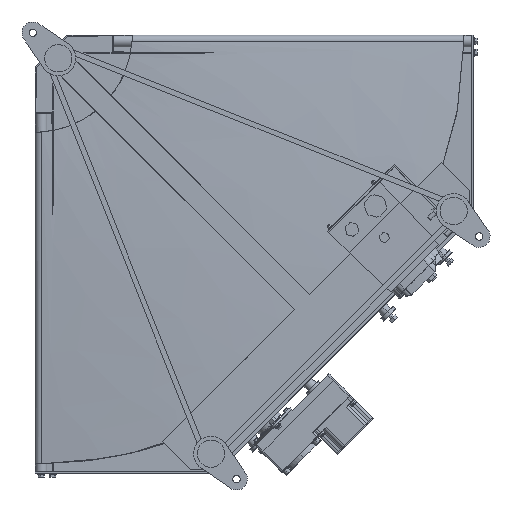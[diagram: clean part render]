
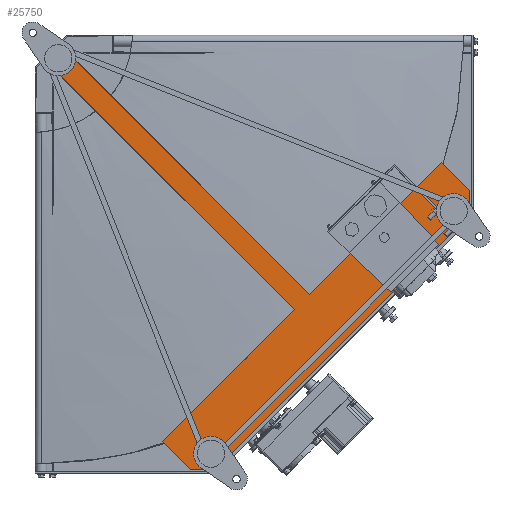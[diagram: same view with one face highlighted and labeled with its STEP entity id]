
A CAD part, front view. The second image highlights one B-rep face of the part: STEP entity #25750.
In plain terms, the highlighted planar face has unit normal (0, -1, 0).
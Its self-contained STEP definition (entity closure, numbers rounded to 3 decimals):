
#268 = CARTESIAN_POINT ( 'NONE',  ( 271.529, -167.5, -759.433 ) ) ;
#382 = CARTESIAN_POINT ( 'NONE',  ( 709.935, -167.5, -222.032 ) ) ;
#1454 = ORIENTED_EDGE ( 'NONE', *, *, #36625, .F. ) ;
#1694 = ORIENTED_EDGE ( 'NONE', *, *, #40478, .F. ) ;
#1859 = EDGE_CURVE ( 'NONE', #30905, #22695, #5357, .T. ) ;
#3122 = CARTESIAN_POINT ( 'NONE',  ( 313.955, -167.5, -759.433 ) ) ;
#3814 = VECTOR ( 'NONE', #7553, 1000. ) ;
#3858 = CARTESIAN_POINT ( 'NONE',  ( 42.073, -167.5, -15.203 ) ) ;
#4547 = DIRECTION ( 'NONE',  ( -0.707, 0., 0.707 ) ) ;
#5345 = CARTESIAN_POINT ( 'NONE',  ( 42.073, -167.5, -15.203 ) ) ;
#5357 = LINE ( 'NONE', #42029, #33442 ) ;
#6112 = VERTEX_POINT ( 'NONE', #34311 ) ;
#7140 = EDGE_CURVE ( 'NONE', #10070, #43599, #30209, .T. ) ;
#7418 = ORIENTED_EDGE ( 'NONE', *, *, #7140, .F. ) ;
#7553 = DIRECTION ( 'NONE',  ( 0.707, 0., -0.707 ) ) ;
#7840 = LINE ( 'NONE', #3858, #3814 ) ;
#9035 = LINE ( 'NONE', #27138, #37168 ) ;
#9699 = VECTOR ( 'NONE', #36234, 1000. ) ;
#9706 = EDGE_CURVE ( 'NONE', #46210, #6112, #39887, .T. ) ;
#10070 = VERTEX_POINT ( 'NONE', #40854 ) ;
#10801 = CARTESIAN_POINT ( 'NONE',  ( 15.203, -167.5, -42.073 ) ) ;
#11234 = VECTOR ( 'NONE', #47549, 1000. ) ;
#14137 = DIRECTION ( 'NONE',  ( 0., -1., 0. ) ) ;
#14619 = AXIS2_PLACEMENT_3D ( 'NONE', #36433, #14137, #17970 ) ;
#16907 = DIRECTION ( 'NONE',  ( -1., 0., 0. ) ) ;
#16935 = FACE_OUTER_BOUND ( 'NONE', #33403, .T. ) ;
#17970 = DIRECTION ( 'NONE',  ( 0., 0., -1. ) ) ;
#18015 = EDGE_CURVE ( 'NONE', #43599, #37800, #7840, .T. ) ;
#18588 = ORIENTED_EDGE ( 'NONE', *, *, #27194, .F. ) ;
#19114 = VECTOR ( 'NONE', #4547, 1000. ) ;
#19859 = LINE ( 'NONE', #25398, #11234 ) ;
#20079 = DIRECTION ( 'NONE',  ( 0., 0., -1. ) ) ;
#20659 = VECTOR ( 'NONE', #39662, 1000. ) ;
#21336 = VECTOR ( 'NONE', #16907, 1000. ) ;
#22695 = VERTEX_POINT ( 'NONE', #23416 ) ;
#23416 = CARTESIAN_POINT ( 'NONE',  ( 759.433, -167.5, -313.955 ) ) ;
#24584 = LINE ( 'NONE', #36089, #9699 ) ;
#24872 = CARTESIAN_POINT ( 'NONE',  ( 479.418, -167.5, -452.548 ) ) ;
#25398 = CARTESIAN_POINT ( 'NONE',  ( 222.032, -167.5, -709.935 ) ) ;
#25750 = ADVANCED_FACE ( 'NONE', ( #16935 ), #36602, .T. ) ;
#27000 = ORIENTED_EDGE ( 'NONE', *, *, #37162, .F. ) ;
#27082 = ORIENTED_EDGE ( 'NONE', *, *, #44680, .F. ) ;
#27138 = CARTESIAN_POINT ( 'NONE',  ( 222.032, -167.5, -709.935 ) ) ;
#27194 = EDGE_CURVE ( 'NONE', #39142, #10070, #35154, .T. ) ;
#27612 = DIRECTION ( 'NONE',  ( 0.707, 0., 0.707 ) ) ;
#28029 = ORIENTED_EDGE ( 'NONE', *, *, #1859, .F. ) ;
#29231 = CARTESIAN_POINT ( 'NONE',  ( 759.433, -167.5, -271.529 ) ) ;
#30209 = LINE ( 'NONE', #10801, #37680 ) ;
#30502 = CARTESIAN_POINT ( 'NONE',  ( 15.203, -167.5, -42.073 ) ) ;
#30566 = LINE ( 'NONE', #38730, #21336 ) ;
#30905 = VERTEX_POINT ( 'NONE', #29231 ) ;
#31326 = VECTOR ( 'NONE', #46139, 1000. ) ;
#32278 = VERTEX_POINT ( 'NONE', #382 ) ;
#33403 = EDGE_LOOP ( 'NONE', ( #18588, #1454, #37500, #27082, #1694, #28029, #34234, #27000, #38428, #7418 ) ) ;
#33442 = VECTOR ( 'NONE', #20079, 1000. ) ;
#34234 = ORIENTED_EDGE ( 'NONE', *, *, #41035, .F. ) ;
#34311 = CARTESIAN_POINT ( 'NONE',  ( 222.032, -167.5, -709.935 ) ) ;
#34654 = CARTESIAN_POINT ( 'NONE',  ( 222.032, -167.5, -709.935 ) ) ;
#34936 = CARTESIAN_POINT ( 'NONE',  ( 452.548, -167.5, -479.418 ) ) ;
#35154 = LINE ( 'NONE', #30502, #19114 ) ;
#36089 = CARTESIAN_POINT ( 'NONE',  ( 709.935, -167.5, -222.032 ) ) ;
#36234 = DIRECTION ( 'NONE',  ( 0.707, 0., -0.707 ) ) ;
#36433 = CARTESIAN_POINT ( 'NONE',  ( 0., -167.5, 0. ) ) ;
#36602 = PLANE ( 'NONE',  #14619 ) ;
#36625 = EDGE_CURVE ( 'NONE', #6112, #39142, #9035, .T. ) ;
#37162 = EDGE_CURVE ( 'NONE', #37800, #32278, #19859, .T. ) ;
#37168 = VECTOR ( 'NONE', #27612, 1000. ) ;
#37500 = ORIENTED_EDGE ( 'NONE', *, *, #9706, .F. ) ;
#37680 = VECTOR ( 'NONE', #46848, 1000. ) ;
#37800 = VERTEX_POINT ( 'NONE', #24872 ) ;
#38428 = ORIENTED_EDGE ( 'NONE', *, *, #18015, .F. ) ;
#38730 = CARTESIAN_POINT ( 'NONE',  ( 271.529, -167.5, -759.433 ) ) ;
#39142 = VERTEX_POINT ( 'NONE', #34936 ) ;
#39662 = DIRECTION ( 'NONE',  ( -0.707, 0., -0.707 ) ) ;
#39887 = LINE ( 'NONE', #34654, #31326 ) ;
#40478 = EDGE_CURVE ( 'NONE', #22695, #41899, #41912, .T. ) ;
#40854 = CARTESIAN_POINT ( 'NONE',  ( 15.203, -167.5, -42.073 ) ) ;
#41035 = EDGE_CURVE ( 'NONE', #32278, #30905, #24584, .T. ) ;
#41899 = VERTEX_POINT ( 'NONE', #45640 ) ;
#41912 = LINE ( 'NONE', #3122, #20659 ) ;
#42029 = CARTESIAN_POINT ( 'NONE',  ( 759.433, -167.5, -313.955 ) ) ;
#43599 = VERTEX_POINT ( 'NONE', #5345 ) ;
#44680 = EDGE_CURVE ( 'NONE', #41899, #46210, #30566, .T. ) ;
#45640 = CARTESIAN_POINT ( 'NONE',  ( 313.955, -167.5, -759.433 ) ) ;
#46139 = DIRECTION ( 'NONE',  ( -0.707, 0., 0.707 ) ) ;
#46210 = VERTEX_POINT ( 'NONE', #268 ) ;
#46848 = DIRECTION ( 'NONE',  ( 0.707, 0., 0.707 ) ) ;
#47549 = DIRECTION ( 'NONE',  ( 0.707, 0., 0.707 ) ) ;
